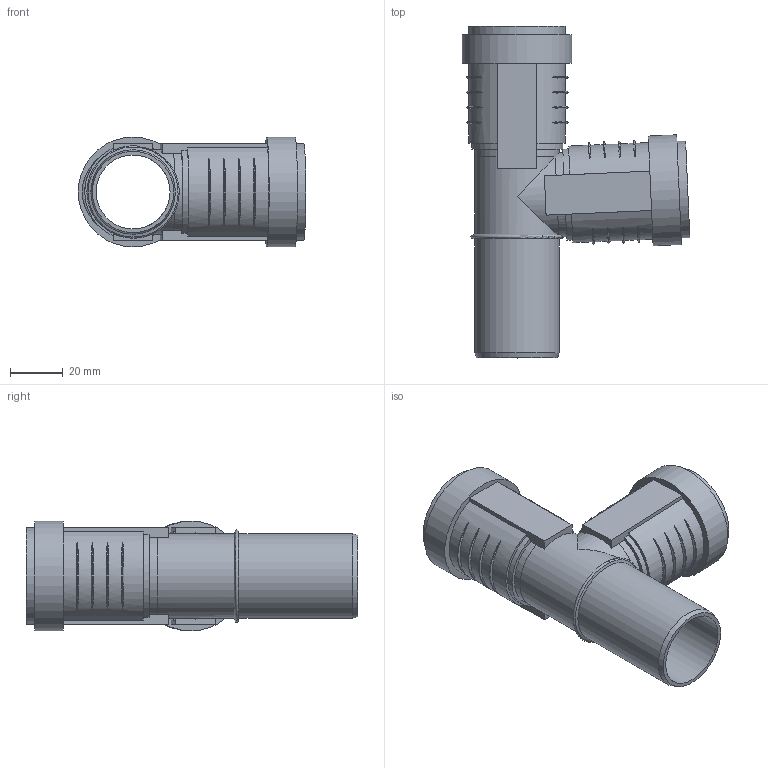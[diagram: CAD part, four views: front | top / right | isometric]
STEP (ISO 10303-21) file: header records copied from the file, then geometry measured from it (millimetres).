
FILE_DESCRIPTION(/* description */ (''),/* implementation_level */ '2;1');
FILE_NAME(/* name */ 'Z:\Geberit\Export\NewStep\390046.stp',/* time_stamp */ '2014-04-02T08:08:22+02:00',/* author */ ('ML'),/* organization */ (''),/* preprocessor_version */ 'ST-DEVELOPER v15.2',/* originating_system */ 'Autodesk Inventor 2014',/* authorisation */ '');
FILE_SCHEMA (('AUTOMOTIVE_DESIGN { 1 0 10303 214 3 1 1 }'));
Length unit declared in the file: millimetre
Products named in the file (4): 861589; 861632; 861632_1; 390046
Bounding box: 86.67 x 126.35 x 41.8 mm (x, y, z)
Volume: 43157.8 mm3; surface area: 43428.3 mm2
Topology: 3 solids, 3 shells, 123 faces, 308 edges, 216 vertices
Faces by surface type: torus 49, plane 37, cylinder 31, cone 5, bspline 1
Full cylindrical faces by diameter (mm): 28.15 x4, 32.15 x5, 32.8 x4, 36.8 x2, 37.8 x2, 41.8 x2
Entity records: 4973 total; most frequent: CARTESIAN_POINT 2046, ORIENTED_EDGE 544, DIRECTION 532, EDGE_CURVE 272, AXIS2_PLACEMENT_3D 230, VERTEX_POINT 206, EDGE_LOOP 182, STYLED_ITEM 125
